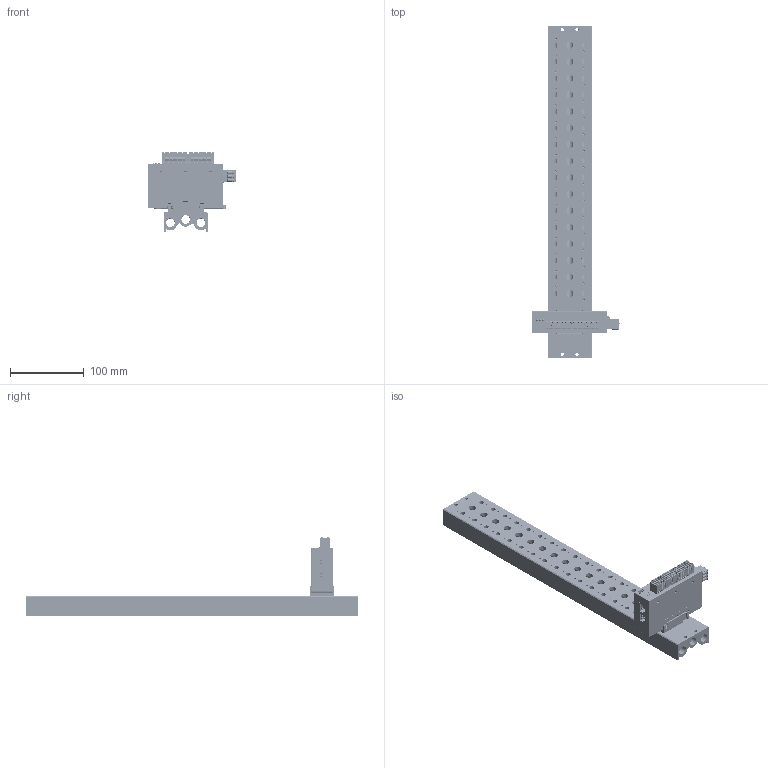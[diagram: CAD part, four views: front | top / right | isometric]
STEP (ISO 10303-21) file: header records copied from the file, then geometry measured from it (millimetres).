
FILE_DESCRIPTION(/* description */ (''),/* implementation_level */ '2;1');
FILE_NAME(/* name */ '',/* time_stamp */ '2025-10-09T16:12:45+08:00',/* author */ (''),/* organization */ (''),/* preprocessor_version */ 'ST-DEVELOPER v14',/* originating_system */ 'SIEMENS PLM Software NX 8.0',/* authorisation */ '');
FILE_SCHEMA (('AP203_CONFIGURATION_CONTROLLED_3D_DESIGN_OF_MECHANICAL_PARTS_AND_ASSEMBLIES_MIM_LF { 1 0 10303 403 2 1 2}'));
Products named in the file (1): DELL3E5857E9ucgj
Bounding box: 119.8 x 451 x 108.48 mm (x, y, z)
Volume: 610595.3 mm3; surface area: 200527.4 mm2
Topology: 2 solids, 228 shells, 10017 faces, 26550 edges, 17302 vertices
Faces by surface type: plane 6500, cylinder 2318, torus 336, bspline 328, cone 254, extrusion 186, sphere 95
Full cylindrical faces by diameter (mm): 0.18 x2, 2.5 x37, 3.05 x40, 3.3 x3, 3.5 x4, 4 x4, 4.5 x4, 6 x4, 6.5 x32, 9.6 x1, 10 x16, 11.492 x2, 11.5 x5, 11.8 x6
Entity records: 331546 total; most frequent: CARTESIAN_POINT 85498, ORIENTED_EDGE 51814, DIRECTION 48920, EDGE_CURVE 25907, VECTOR 18384, LINE 18198, VERTEX_POINT 17130, AXIS2_PLACEMENT_3D 15268
